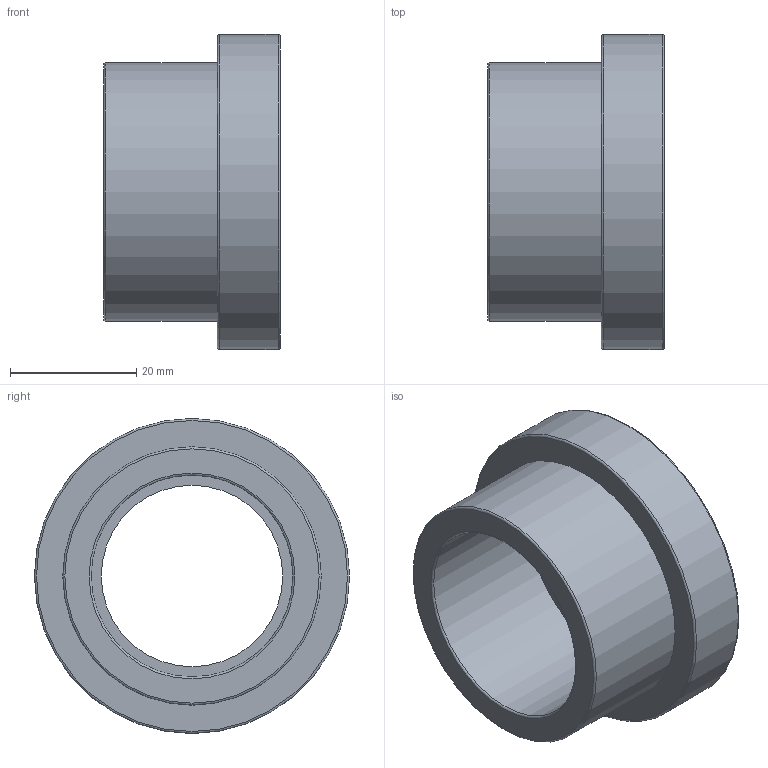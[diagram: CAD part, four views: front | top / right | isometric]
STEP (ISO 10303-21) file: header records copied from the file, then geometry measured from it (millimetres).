
FILE_DESCRIPTION(/* description */ ('PLASSON FLANGE AD.+O-RING-CE 32'),/* implementation_level */ '2;1');
FILE_NAME(/* name */ 'C:\Dropbox\KIMPROJECTS-Inventor\99-16-3568-Processing\PVC Catalog 2017\055000\055000032.ipt.stp',/* time_stamp */ '2017-12-07T16:04:32+02:00',/* author */ ('KIM'),/* organization */ (''),/* preprocessor_version */ 'ST-DEVELOPER v15.6',/* originating_system */ 'Autodesk Inventor 2015',/* authorisation */ '');
FILE_SCHEMA (('AUTOMOTIVE_DESIGN { 1 0 10303 214 3 1 1 }'));
Length unit declared in the file: millimetre
Products named in the file (1): 055000032
Bounding box: 28 x 50 x 50 mm (x, y, z)
Volume: 20602.7 mm3; surface area: 9855.5 mm2
Topology: 1 solids, 1 shells, 21 faces, 36 edges, 21 vertices
Faces by surface type: torus 9, plane 6, cylinder 6
Full cylindrical faces by diameter (mm): 28.8 x1, 32 x1, 36.22 x1, 41 x1, 42.58 x1, 50 x1
Entity records: 452 total; most frequent: DIRECTION 86, CARTESIAN_POINT 64, AXIS2_PLACEMENT_3D 43, EDGE_LOOP 42, ORIENTED_EDGE 42, FACE_BOUND 21, FACE_OUTER_BOUND 21, CIRCLE 21
